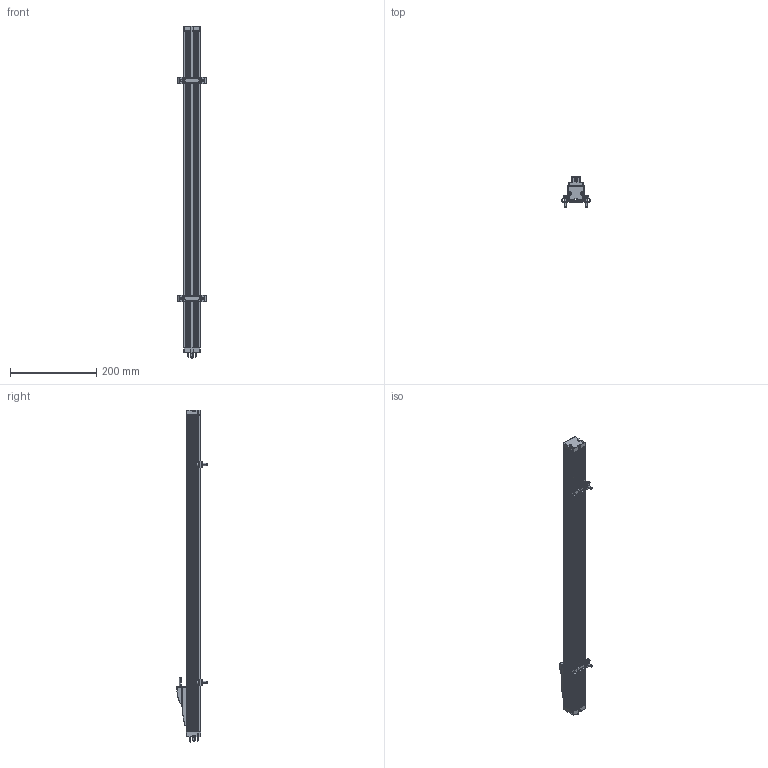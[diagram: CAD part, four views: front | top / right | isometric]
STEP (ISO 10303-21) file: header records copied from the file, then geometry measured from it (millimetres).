
FILE_DESCRIPTION (( 'STEP AP214' ), '1' );
FILE_NAME ('0600.STEP', '2008-11-27T14:44:00', ( 'novotechnik' ), ( 'novotechnik' ), 'SwSTEP 2.0', 'SolidWorks 2008', '' );
FILE_SCHEMA (( 'AUTOMOTIVE_DESIGN' ));
Length unit declared in the file: millimetre
Products named in the file (5): Klammer_Anschlusseite_0600_Standard; Gleitschlitten_Standard; Klammer_Endseite_0600_Standard; Housing_0600_Standard; 0600
Assembly tree (4 placements, depth 2):
  0600
    Gleitschlitten_Standard
    Housing_0600_Standard
    Klammer_Anschlusseite_0600_Standard
    Klammer_Endseite_0600_Standard
Bounding box: 65 x 70.2 x 770 mm (x, y, z)
Volume: 873799.1 mm3; surface area: 205673.4 mm2
Topology: 23 solids, 23 shells, 1179 faces, 3152 edges, 2027 vertices
Faces by surface type: plane 572, cylinder 421, bspline 94, cone 56, torus 22, sphere 14
Entity records: 54437 total; most frequent: CARTESIAN_POINT 12049, ORIENTED_EDGE 6256, DIRECTION 5810, EDGE_CURVE 3128, VERTEX_POINT 2027, AXIS2_PLACEMENT_3D 1953, VECTOR 1904, LINE 1904
